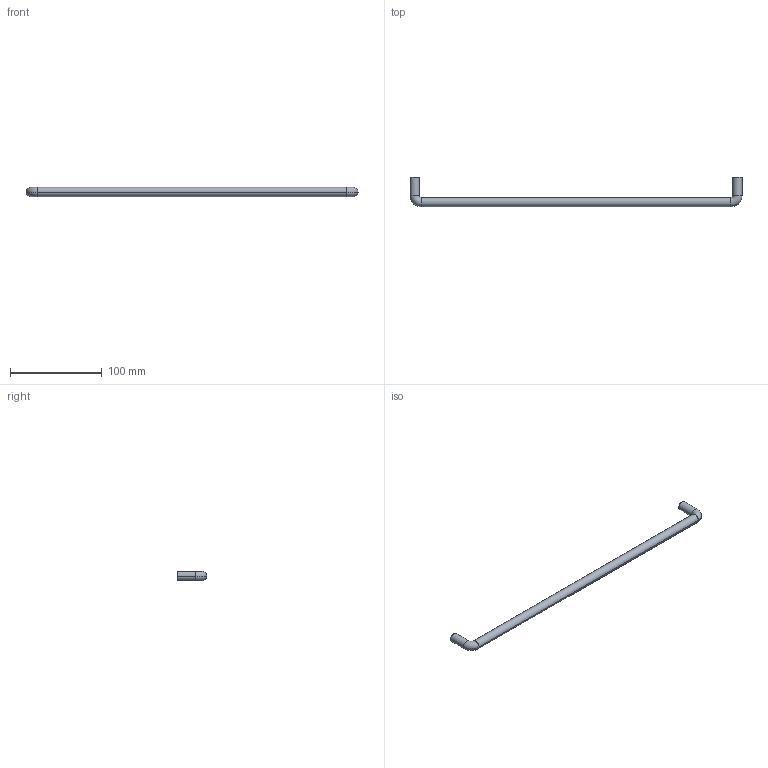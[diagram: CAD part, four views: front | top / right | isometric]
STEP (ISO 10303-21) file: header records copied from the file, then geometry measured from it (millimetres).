
FILE_DESCRIPTION( ( '' ), '1' );
FILE_NAME( 'C:/Documents and Settings/Sachin/Desktop/Sheet 10_1/stp/9070421.stp', '2013-10-22T08:18:51', ( '' ), ( '' ), ' ', ' ', ' ' );
FILE_SCHEMA( ( 'CONFIG_CONTROL_DESIGN' ) );
Length unit declared in the file: millimetre
Products named in the file (1): 1
Bounding box: 362 x 32 x 10 mm (x, y, z)
Volume: 31163.9 mm3; surface area: 12974.5 mm2
Topology: 1 solids, 1 shells, 18 faces, 34 edges, 20 vertices
Faces by surface type: cylinder 10, torus 4, plane 4
Entity records: 502 total; most frequent: DIRECTION 96, CARTESIAN_POINT 73, ORIENTED_EDGE 68, AXIS2_PLACEMENT_3D 43, EDGE_CURVE 34, CIRCLE 24, EDGE_LOOP 20, VERTEX_POINT 20
